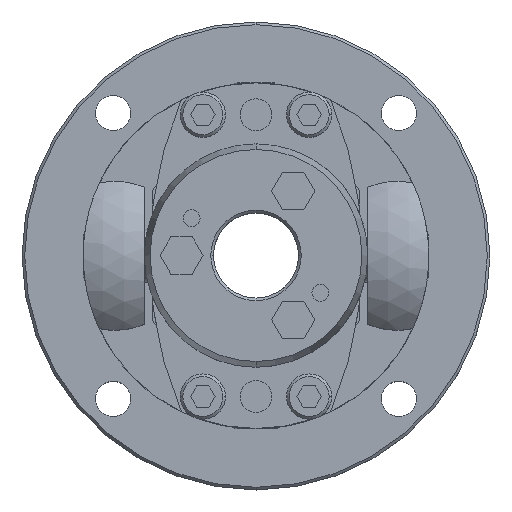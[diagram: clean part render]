
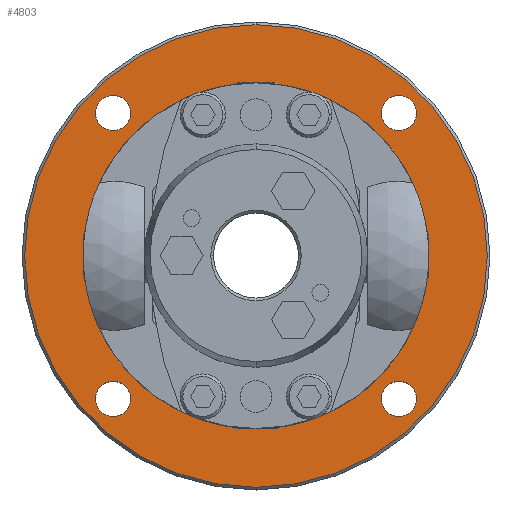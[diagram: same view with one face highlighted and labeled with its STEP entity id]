
A CAD part, top view. The second image highlights one B-rep face of the part: STEP entity #4803.
In plain terms, the highlighted planar face has unit normal (0, 0, 1).
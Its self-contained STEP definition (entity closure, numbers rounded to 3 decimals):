
#2075=CARTESIAN_POINT('',(0.,32.5,-14.0));
#2076=VERTEX_POINT('',#2075);
#2085=CARTESIAN_POINT('',(0.,-32.5,-14.0));
#2086=VERTEX_POINT('',#2085);
#2087=CARTESIAN_POINT('',(0.0,0.0,-14.0));
#2088=DIRECTION('',(0.0,0.0,-1.0));
#2089=DIRECTION('',(0.0,1.0,0.0));
#2090=AXIS2_PLACEMENT_3D('',#2087,#2088,#2089);
#2091=CIRCLE('',#2090,32.5);
#2092=EDGE_CURVE('',#2086,#2076,#2091,.T.);
#2167=CARTESIAN_POINT('',(-26.87,30.17,-14.0));
#2168=VERTEX_POINT('',#2167);
#2177=CARTESIAN_POINT('',(-26.87,23.57,-14.0));
#2178=VERTEX_POINT('',#2177);
#2179=CARTESIAN_POINT('',(-26.87,26.87,-14.0));
#2180=DIRECTION('',(0.0,0.0,-1.0));
#2181=DIRECTION('',(0.0,1.0,0.0));
#2182=AXIS2_PLACEMENT_3D('',#2179,#2180,#2181);
#2183=CIRCLE('',#2182,3.3);
#2184=EDGE_CURVE('',#2178,#2168,#2183,.T.);
#2209=CARTESIAN_POINT('',(-26.87,-23.57,-14.0));
#2210=VERTEX_POINT('',#2209);
#2219=CARTESIAN_POINT('',(-26.87,-30.17,-14.0));
#2220=VERTEX_POINT('',#2219);
#2221=CARTESIAN_POINT('',(-26.87,-26.87,-14.0));
#2222=DIRECTION('',(0.0,0.0,-1.0));
#2223=DIRECTION('',(0.0,1.0,0.0));
#2224=AXIS2_PLACEMENT_3D('',#2221,#2222,#2223);
#2225=CIRCLE('',#2224,3.3);
#2226=EDGE_CURVE('',#2220,#2210,#2225,.T.);
#2251=CARTESIAN_POINT('',(26.87,-23.57,-14.0));
#2252=VERTEX_POINT('',#2251);
#2261=CARTESIAN_POINT('',(26.87,-30.17,-14.0));
#2262=VERTEX_POINT('',#2261);
#2263=CARTESIAN_POINT('',(26.87,-26.87,-14.0));
#2264=DIRECTION('',(0.0,0.0,-1.0));
#2265=DIRECTION('',(0.0,1.0,0.0));
#2266=AXIS2_PLACEMENT_3D('',#2263,#2264,#2265);
#2267=CIRCLE('',#2266,3.3);
#2268=EDGE_CURVE('',#2262,#2252,#2267,.T.);
#2293=CARTESIAN_POINT('',(26.87,30.17,-14.0));
#2294=VERTEX_POINT('',#2293);
#2303=CARTESIAN_POINT('',(26.87,23.57,-14.0));
#2304=VERTEX_POINT('',#2303);
#2305=CARTESIAN_POINT('',(26.87,26.87,-14.0));
#2306=DIRECTION('',(0.0,0.0,-1.0));
#2307=DIRECTION('',(0.0,1.0,0.0));
#2308=AXIS2_PLACEMENT_3D('',#2305,#2306,#2307);
#2309=CIRCLE('',#2308,3.3);
#2310=EDGE_CURVE('',#2304,#2294,#2309,.T.);
#2545=CARTESIAN_POINT('',(0.,-43.5,-14.0));
#2546=VERTEX_POINT('',#2545);
#2555=CARTESIAN_POINT('',(0.,43.5,-14.0));
#2556=VERTEX_POINT('',#2555);
#2557=CARTESIAN_POINT('',(0.0,0.0,-14.0));
#2558=DIRECTION('',(0.0,0.0,-1.0));
#2559=DIRECTION('',(0.0,-1.0,0.0));
#2560=AXIS2_PLACEMENT_3D('',#2557,#2558,#2559);
#2561=CIRCLE('',#2560,43.5);
#2562=EDGE_CURVE('',#2546,#2556,#2561,.T.);
#4734=CARTESIAN_POINT('',(0.0,0.0,-14.0));
#4735=DIRECTION('',(0.0,0.0,-1.0));
#4736=DIRECTION('',(0.0,-1.0,0.0));
#4737=AXIS2_PLACEMENT_3D('',#4734,#4735,#4736);
#4738=CIRCLE('',#4737,43.5);
#4739=EDGE_CURVE('',#2556,#2546,#4738,.T.);
#4744=CARTESIAN_POINT('',(0.,4.,-14.0));
#4745=DIRECTION('',(0.0,0.0,1.0));
#4746=DIRECTION('',(0.0,1.0,0.0));
#4747=AXIS2_PLACEMENT_3D('',#4744,#4745,#4746);
#4748=PLANE('',#4747);
#4749=ORIENTED_EDGE('',*,*,#4739,.F.);
#4750=ORIENTED_EDGE('',*,*,#2562,.F.);
#4751=EDGE_LOOP('',(#4749,#4750));
#4752=FACE_OUTER_BOUND('',#4751,.T.);
#4753=ORIENTED_EDGE('',*,*,#2092,.T.);
#4754=CARTESIAN_POINT('',(0.0,0.0,-14.0));
#4755=DIRECTION('',(0.0,0.0,-1.0));
#4756=DIRECTION('',(0.0,1.0,0.0));
#4757=AXIS2_PLACEMENT_3D('',#4754,#4755,#4756);
#4758=CIRCLE('',#4757,32.5);
#4759=EDGE_CURVE('',#2076,#2086,#4758,.T.);
#4760=ORIENTED_EDGE('',*,*,#4759,.T.);
#4761=EDGE_LOOP('',(#4753,#4760));
#4762=FACE_BOUND('',#4761,.T.);
#4763=ORIENTED_EDGE('',*,*,#2184,.T.);
#4764=CARTESIAN_POINT('',(-26.87,26.87,-14.0));
#4765=DIRECTION('',(0.0,0.0,-1.0));
#4766=DIRECTION('',(0.0,1.0,0.0));
#4767=AXIS2_PLACEMENT_3D('',#4764,#4765,#4766);
#4768=CIRCLE('',#4767,3.3);
#4769=EDGE_CURVE('',#2168,#2178,#4768,.T.);
#4770=ORIENTED_EDGE('',*,*,#4769,.T.);
#4771=EDGE_LOOP('',(#4763,#4770));
#4772=FACE_BOUND('',#4771,.T.);
#4773=ORIENTED_EDGE('',*,*,#2226,.T.);
#4774=CARTESIAN_POINT('',(-26.87,-26.87,-14.0));
#4775=DIRECTION('',(0.0,0.0,-1.0));
#4776=DIRECTION('',(0.0,1.0,0.0));
#4777=AXIS2_PLACEMENT_3D('',#4774,#4775,#4776);
#4778=CIRCLE('',#4777,3.3);
#4779=EDGE_CURVE('',#2210,#2220,#4778,.T.);
#4780=ORIENTED_EDGE('',*,*,#4779,.T.);
#4781=EDGE_LOOP('',(#4773,#4780));
#4782=FACE_BOUND('',#4781,.T.);
#4783=ORIENTED_EDGE('',*,*,#2268,.T.);
#4784=CARTESIAN_POINT('',(26.87,-26.87,-14.0));
#4785=DIRECTION('',(0.0,0.0,-1.0));
#4786=DIRECTION('',(0.0,1.0,0.0));
#4787=AXIS2_PLACEMENT_3D('',#4784,#4785,#4786);
#4788=CIRCLE('',#4787,3.3);
#4789=EDGE_CURVE('',#2252,#2262,#4788,.T.);
#4790=ORIENTED_EDGE('',*,*,#4789,.T.);
#4791=EDGE_LOOP('',(#4783,#4790));
#4792=FACE_BOUND('',#4791,.T.);
#4793=ORIENTED_EDGE('',*,*,#2310,.T.);
#4794=CARTESIAN_POINT('',(26.87,26.87,-14.0));
#4795=DIRECTION('',(0.0,0.0,-1.0));
#4796=DIRECTION('',(0.0,1.0,0.0));
#4797=AXIS2_PLACEMENT_3D('',#4794,#4795,#4796);
#4798=CIRCLE('',#4797,3.3);
#4799=EDGE_CURVE('',#2294,#2304,#4798,.T.);
#4800=ORIENTED_EDGE('',*,*,#4799,.T.);
#4801=EDGE_LOOP('',(#4793,#4800));
#4802=FACE_BOUND('',#4801,.T.);
#4803=ADVANCED_FACE('',(#4752,#4762,#4772,#4782,#4792,#4802),#4748,.T.);
